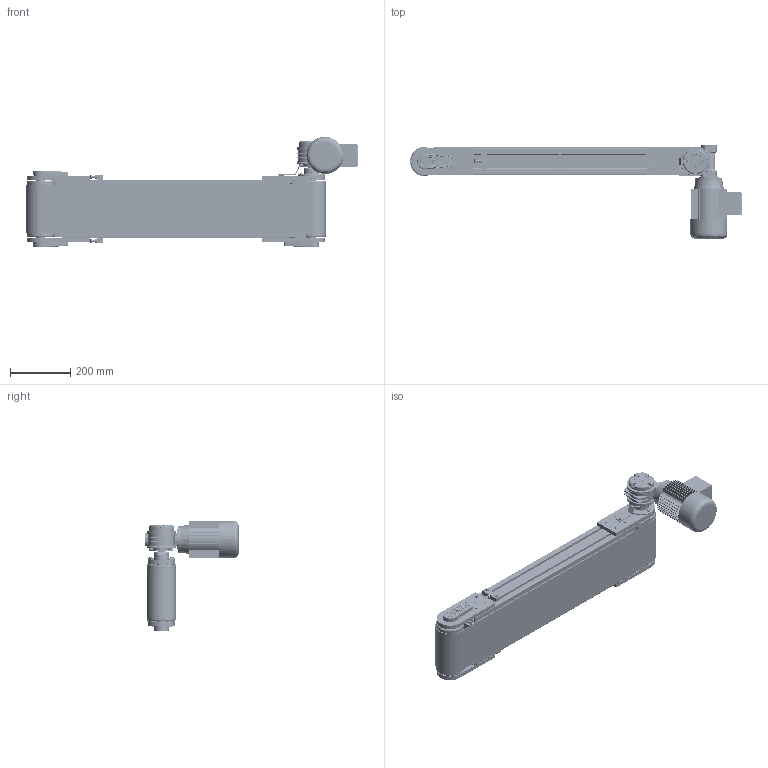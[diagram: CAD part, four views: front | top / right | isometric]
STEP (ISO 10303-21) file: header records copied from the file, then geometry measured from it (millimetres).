
FILE_DESCRIPTION (( 'STEP AP214' ), '1' );
FILE_NAME ('NASTRO_RETTILINEO_TAPPETO.step', '2026-05-08T14:51:07', ( 'Utente Windows' ), ( '' ), 'SwSTEP 2.0', 'SolidWorks 2024', '' );
FILE_SCHEMA (( 'AUTOMOTIVE_DESIGN' ));
Length unit declared in the file: millimetre
Products named in the file (43): 084.802.071; BLOCCO_TRAINO_95_CORTA; TELAIO_95_STANDARD_Default<A macchina>; VITI TCEI UNI 5931_M4x25 UNI 5931; 30UNI7435; RONDELLE FASCIA LARGA UNI 6593_6.4x24 UNI 6593; CHIAVETTE_A 8x7x20 UNI 6604-69; 084.812.001; 084.802.062; BLOCCO_PERNO_95_RINVIO; VITI TSEI UNI 5933_M5x12 UNI 5933; CH04P_DX; 084.812.003; 084.808.007_084.808.007; 084.803.018; LAMIERA_STANDARD; 084.808.012; NASTRO_RETTILINEO_TAPPETO; 084.802.019_084.802.019; 084.302.000 DADI ALUSIC 13x13-1_084.302.007; 084.802.060_Default<A macchina>; VITE_RONDELLA_M8X20; TAPPETO_STANDARD; 084.301.000 VITI ALUSIC_084.301.003; 084.303.001; 084.302.000 DADI ALUSIC 13x13-1_084.302.004; 084.810.003; BLOCCO_PERNO_95_44; VITI TSEI UNI 5933_M4x12 UNI 5933; 084.302.016; BLOCCO_RINVIO_95_CORTA_CON TENDINASTRO E CARTER; RULLO_95_Default<A macchina>; VITI TCEI UNI 5931_M6x12 UNI 5931; 084.802.034_084.802.034; CHIAVETTE_A 6x6x60 UNI 6604-69; 084.808.006_084.808.002; BLOCCO_BRACCIO_CH04P_V2_VF44P V2; VITI TE UNI 5739_M6x16 UNI 5739; 084.802.067_Default<A macchina>; VITI TE UNI 5739_M6x12 UNI 5739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
Assembly tree (97 placements, depth 4):
  NASTRO_RETTILINEO_TAPPETO
    TAPPETO_STANDARD
    TELAIO_95_STANDARD_Default<A macchina>
    LAMIERA_STANDARD
    RULLO_95_Default<A macchina>  x2
    BLOCCO_PERNO_95_44
      084.812.001
      084.810.003
      CHIAVETTE_A 6x6x60 UNI 6604-69
      CHIAVETTE_A 8x7x20 UNI 6604-69
      RONDELLE FASCIA LARGA UNI 6593_6.4x24 UNI 6593
      VITI TE UNI 5739_M6x12 UNI 5739
      30UNI7435
    BLOCCO_TRAINO_95_CORTA_44_DX_CON TENDINASTRO E SENZA CARTER
      084.808.007_084.808.007
      084.302.016  x2
      084.802.034_084.802.034
      084.301.000 VITI ALUSIC_084.301.003  x4
      084.802.067_Default<A macchina>
      VITI TCEI UNI 5931_M4x25 UNI 5931  x2
      BLOCCO_BRACCIO_CH04P_V2_VF44P V2
        084.808.012
        084.802.062
        084.803.018
        VITI TCEI UNI 5931_M6x12 UNI 5931  x4
        VITI TE UNI 5739_M6x16 UNI 5739  x4
        084.802.060_Default<A macchina>
    BLOCCO_PERNO_95_RINVIO  x3
      084.812.003
      084.810.003
      30UNI7435
    BLOCCO_TRAINO_95_CORTA
      084.301.000 VITI ALUSIC_084.301.003  x4
      084.808.006_084.808.002
      084.802.019_084.802.019
      084.302.016  x2
      084.802.067_Default<A macchina>
      VITI TCEI UNI 5931_M4x25 UNI 5931  x2
      084.802.071
      VITI TSEI UNI 5933_M4x12 UNI 5933  x2
    BLOCCO_RINVIO_95_CORTA_CON TENDINASTRO E CARTER  x2
      084.808.006_084.808.002
      084.803.003
      084.302.016
      084.802.019_084.802.019
      VITI TSEI UNI 5933_M4x12 UNI 5933
      084.302.000 DADI ALUSIC 13x13-1_084.302.004
      084.301.000 VITI ALUSIC_084.301.003
      084.802.071
    VITE_RONDELLA_M8X20  x9
      084.303.001
      084.301.000 VITI ALUSIC_084.301.003
    VITE_DADO_M5X12  x6
      084.302.000 DADI ALUSIC 13x13-1_084.302.007
      VITI TSEI UNI 5933_M5x12 UNI 5933
    CH04P_DX
Bounding box: 1104.1 x 311 x 366.5 mm (x, y, z)
Volume: 8010187 mm3; surface area: 3836563.9 mm2
Topology: 142 solids, 151 shells, 6647 faces, 17033 edges, 10872 vertices
Faces by surface type: plane 3282, cylinder 1692, cone 641, bspline 617, torus 355, sphere 60
Entity records: 130214 total; most frequent: CARTESIAN_POINT 40920, ORIENTED_EDGE 19014, DIRECTION 17528, EDGE_CURVE 9507, VERTEX_POINT 6114, AXIS2_PLACEMENT_3D 6095, VECTOR 5338, LINE 5338
